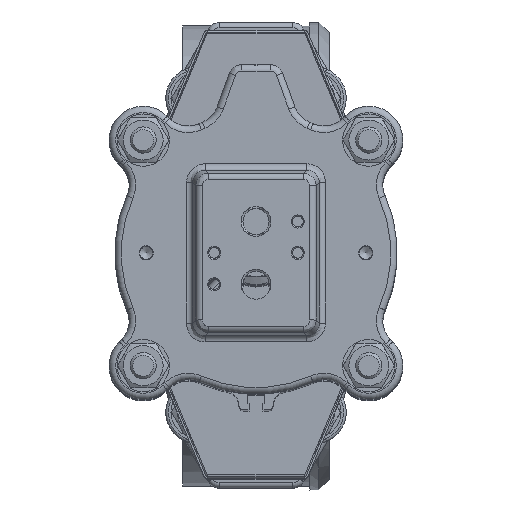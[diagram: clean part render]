
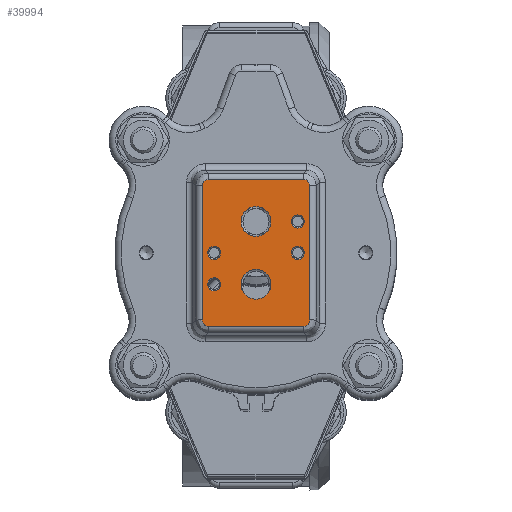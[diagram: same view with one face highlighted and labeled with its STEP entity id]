
A CAD part, top view. The second image highlights one B-rep face of the part: STEP entity #39994.
In plain terms, the highlighted planar face has unit normal (0, 0, 1).
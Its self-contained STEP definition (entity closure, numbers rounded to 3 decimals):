
#189=ELLIPSE('',#44844,2.673,2.5);
#190=ELLIPSE('',#44845,2.673,2.5);
#191=ELLIPSE('',#44846,2.673,2.5);
#192=ELLIPSE('',#44847,2.673,2.5);
#4655=LINE('',#94231,#6760);
#4656=LINE('',#94235,#6761);
#4657=LINE('',#94239,#6762);
#4658=LINE('',#94242,#6763);
#6760=VECTOR('',#56482,10.);
#6761=VECTOR('',#56485,10.);
#6762=VECTOR('',#56488,10.);
#6763=VECTOR('',#56491,10.);
#7376=FACE_BOUND('',#12351,.T.);
#7377=FACE_BOUND('',#12352,.T.);
#7378=FACE_BOUND('',#12353,.T.);
#7379=FACE_BOUND('',#12354,.T.);
#7380=FACE_BOUND('',#12355,.T.);
#7381=FACE_BOUND('',#12356,.T.);
#9651=FACE_OUTER_BOUND('',#12350,.T.);
#12350=EDGE_LOOP('',(#36143,#36144,#36145,#36146,#36147,#36148,#36149,#36150));
#12351=EDGE_LOOP('',(#36151,#36152));
#12352=EDGE_LOOP('',(#36153,#36154));
#12353=EDGE_LOOP('',(#36155));
#12354=EDGE_LOOP('',(#36156));
#12355=EDGE_LOOP('',(#36157));
#12356=EDGE_LOOP('',(#36158));
#14929=CIRCLE('',#44714,5.723);
#14930=CIRCLE('',#44715,5.723);
#14932=CIRCLE('',#44718,5.723);
#14933=CIRCLE('',#44719,5.723);
#15023=CIRCLE('',#44842,2.5);
#15024=CIRCLE('',#44848,2.5);
#15025=CIRCLE('',#44849,2.5);
#15026=CIRCLE('',#44850,2.5);
#18617=VERTEX_POINT('',#93538);
#18618=VERTEX_POINT('',#93540);
#18619=VERTEX_POINT('',#93545);
#18620=VERTEX_POINT('',#93547);
#18720=VERTEX_POINT('',#94223);
#18721=VERTEX_POINT('',#94227);
#18722=VERTEX_POINT('',#94228);
#18723=VERTEX_POINT('',#94230);
#18724=VERTEX_POINT('',#94232);
#18725=VERTEX_POINT('',#94234);
#18726=VERTEX_POINT('',#94236);
#18727=VERTEX_POINT('',#94238);
#18728=VERTEX_POINT('',#94240);
#18729=VERTEX_POINT('',#94243);
#18730=VERTEX_POINT('',#94245);
#18731=VERTEX_POINT('',#94247);
#24425=EDGE_CURVE('',#18618,#18617,#14929,.T.);
#24426=EDGE_CURVE('',#18617,#18618,#14930,.T.);
#24429=EDGE_CURVE('',#18620,#18619,#14932,.T.);
#24430=EDGE_CURVE('',#18619,#18620,#14933,.T.);
#24565=EDGE_CURVE('',#18720,#18720,#15023,.T.);
#24566=EDGE_CURVE('',#18721,#18722,#189,.T.);
#24567=EDGE_CURVE('',#18723,#18721,#4655,.T.);
#24568=EDGE_CURVE('',#18724,#18723,#190,.T.);
#24569=EDGE_CURVE('',#18725,#18724,#4656,.T.);
#24570=EDGE_CURVE('',#18726,#18725,#191,.T.);
#24571=EDGE_CURVE('',#18727,#18726,#4657,.T.);
#24572=EDGE_CURVE('',#18728,#18727,#192,.T.);
#24573=EDGE_CURVE('',#18722,#18728,#4658,.T.);
#24574=EDGE_CURVE('',#18729,#18729,#15024,.T.);
#24575=EDGE_CURVE('',#18730,#18730,#15025,.T.);
#24576=EDGE_CURVE('',#18731,#18731,#15026,.T.);
#36143=ORIENTED_EDGE('',*,*,#24566,.F.);
#36144=ORIENTED_EDGE('',*,*,#24567,.F.);
#36145=ORIENTED_EDGE('',*,*,#24568,.F.);
#36146=ORIENTED_EDGE('',*,*,#24569,.F.);
#36147=ORIENTED_EDGE('',*,*,#24570,.F.);
#36148=ORIENTED_EDGE('',*,*,#24571,.F.);
#36149=ORIENTED_EDGE('',*,*,#24572,.F.);
#36150=ORIENTED_EDGE('',*,*,#24573,.F.);
#36151=ORIENTED_EDGE('',*,*,#24425,.T.);
#36152=ORIENTED_EDGE('',*,*,#24426,.T.);
#36153=ORIENTED_EDGE('',*,*,#24429,.T.);
#36154=ORIENTED_EDGE('',*,*,#24430,.T.);
#36155=ORIENTED_EDGE('',*,*,#24574,.F.);
#36156=ORIENTED_EDGE('',*,*,#24575,.F.);
#36157=ORIENTED_EDGE('',*,*,#24576,.F.);
#36158=ORIENTED_EDGE('',*,*,#24565,.F.);
#37695=PLANE('',#44843);
#39994=ADVANCED_FACE('',(#9651,#7376,#7377,#7378,#7379,#7380,#7381),#37695,
 .F.);
#44714=AXIS2_PLACEMENT_3D('',#93541,#56192,#56193);
#44715=AXIS2_PLACEMENT_3D('',#93542,#56194,#56195);
#44718=AXIS2_PLACEMENT_3D('',#93548,#56201,#56202);
#44719=AXIS2_PLACEMENT_3D('',#93549,#56203,#56204);
#44842=AXIS2_PLACEMENT_3D('',#94225,#56476,#56477);
#44843=AXIS2_PLACEMENT_3D('',#94226,#56478,#56479);
#44844=AXIS2_PLACEMENT_3D('',#94229,#56480,#56481);
#44845=AXIS2_PLACEMENT_3D('',#94233,#56483,#56484);
#44846=AXIS2_PLACEMENT_3D('',#94237,#56486,#56487);
#44847=AXIS2_PLACEMENT_3D('',#94241,#56489,#56490);
#44848=AXIS2_PLACEMENT_3D('',#94244,#56492,#56493);
#44849=AXIS2_PLACEMENT_3D('',#94246,#56494,#56495);
#44850=AXIS2_PLACEMENT_3D('',#94248,#56496,#56497);
#56192=DIRECTION('center_axis',(0.,0.,
-1.));
#56193=DIRECTION('ref_axis',(0.,1.,0.));
#56194=DIRECTION('center_axis',(0.,0.,
-1.));
#56195=DIRECTION('ref_axis',(0.,1.,0.));
#56201=DIRECTION('center_axis',(0.,0.,
-1.));
#56202=DIRECTION('ref_axis',(0.,1.,0.));
#56203=DIRECTION('center_axis',(0.,0.,
-1.));
#56204=DIRECTION('ref_axis',(0.,1.,0.));
#56476=DIRECTION('center_axis',(0.,0.,
1.));
#56477=DIRECTION('ref_axis',(0.,-1.,0.));
#56478=DIRECTION('center_axis',(0.,0.,
-1.));
#56479=DIRECTION('ref_axis',(0.,-1.,0.));
#56480=DIRECTION('center_axis',(0.,0.,
-1.));
#56481=DIRECTION('ref_axis',(0.707,-0.707,0.));
#56482=DIRECTION('',(0.,-1.,0.));
#56483=DIRECTION('center_axis',(0.,0.,
-1.));
#56484=DIRECTION('ref_axis',(0.707,0.707,0.));
#56485=DIRECTION('',(1.,0.,0.));
#56486=DIRECTION('center_axis',(0.,0.,
-1.));
#56487=DIRECTION('ref_axis',(-0.707,0.707,0.));
#56488=DIRECTION('',(0.,1.,0.));
#56489=DIRECTION('center_axis',(0.,0.,
-1.));
#56490=DIRECTION('ref_axis',(-0.707,-0.707,0.));
#56491=DIRECTION('',(-1.,0.,0.));
#56492=DIRECTION('center_axis',(0.,0.,
1.));
#56493=DIRECTION('ref_axis',(0.,-1.,0.));
#56494=DIRECTION('center_axis',(0.,0.,
1.));
#56495=DIRECTION('ref_axis',(0.,-1.,0.));
#56496=DIRECTION('center_axis',(0.,0.,
1.));
#56497=DIRECTION('ref_axis',(0.,-1.,0.));
#93538=CARTESIAN_POINT('',(0.,-17.722,708.5));
#93540=CARTESIAN_POINT('',(0.,-6.277,708.5));
#93541=CARTESIAN_POINT('Origin',(0.,-12.,
708.5));
#93542=CARTESIAN_POINT('Origin',(0.,-12.,
708.5));
#93545=CARTESIAN_POINT('',(0.,6.278,708.5));
#93547=CARTESIAN_POINT('',(0.,17.723,708.5));
#93548=CARTESIAN_POINT('Origin',(0.,12.,
708.5));
#93549=CARTESIAN_POINT('Origin',(0.,12.,
708.5));
#94223=CARTESIAN_POINT('',(-16.,-9.5,708.5));
#94225=CARTESIAN_POINT('Origin',(-16.,-12.,708.5));
#94226=CARTESIAN_POINT('Origin',(0.,0.,
708.5));
#94227=CARTESIAN_POINT('',(20.582,-25.667,708.5));
#94228=CARTESIAN_POINT('',(18.167,-28.082,708.5));
#94229=CARTESIAN_POINT('Origin',(17.993,-25.493,708.5));
#94230=CARTESIAN_POINT('',(20.582,25.667,708.5));
#94231=CARTESIAN_POINT('',(20.582,-15.,708.5));
#94232=CARTESIAN_POINT('',(18.167,28.082,708.5));
#94233=CARTESIAN_POINT('Origin',(17.993,25.493,708.5));
#94234=CARTESIAN_POINT('',(-18.167,28.082,708.5));
#94235=CARTESIAN_POINT('',(11.25,28.082,708.5));
#94236=CARTESIAN_POINT('',(-20.582,25.667,708.5));
#94237=CARTESIAN_POINT('Origin',(-17.993,25.493,708.5));
#94238=CARTESIAN_POINT('',(-20.582,-25.667,708.5));
#94239=CARTESIAN_POINT('',(-20.582,15.,708.5));
#94240=CARTESIAN_POINT('',(-18.167,-28.082,708.5));
#94241=CARTESIAN_POINT('Origin',(-17.993,-25.493,708.5));
#94242=CARTESIAN_POINT('',(-11.25,-28.082,708.5));
#94243=CARTESIAN_POINT('',(-16.,2.5,708.5));
#94244=CARTESIAN_POINT('Origin',(-16.,0.,
708.5));
#94245=CARTESIAN_POINT('',(16.,14.5,708.5));
#94246=CARTESIAN_POINT('Origin',(16.,12.,708.5));
#94247=CARTESIAN_POINT('',(16.,2.5,708.5));
#94248=CARTESIAN_POINT('Origin',(16.,0.,708.5));
